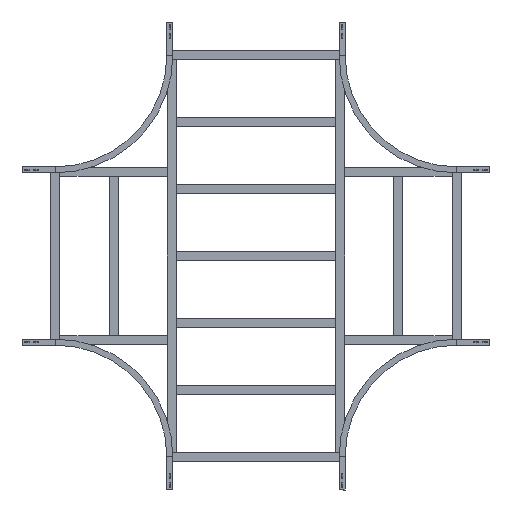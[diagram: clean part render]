
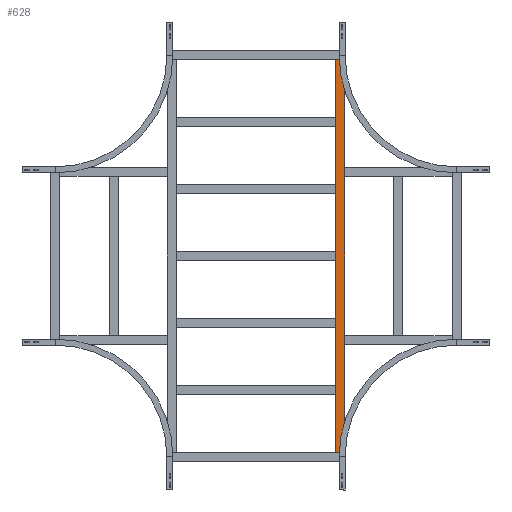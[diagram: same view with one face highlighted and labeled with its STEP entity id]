
A CAD part, front view. The second image highlights one B-rep face of the part: STEP entity #628.
In plain terms, the highlighted planar face has unit normal (0, -1, 0).
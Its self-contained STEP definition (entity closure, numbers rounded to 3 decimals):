
#31 = LINE ( 'NONE', #977, #1953 ) ;
#82 = DIRECTION ( 'NONE',  ( -1., 0., 0. ) ) ;
#87 = ORIENTED_EDGE ( 'NONE', *, *, #2521, .F. ) ;
#96 = CARTESIAN_POINT ( 'NONE',  ( 879.75, 0., 20.25 ) ) ;
#124 = EDGE_CURVE ( 'NONE', #2444, #817, #2101, .T. ) ;
#562 = CARTESIAN_POINT ( 'NONE',  ( 879.75, 0., -20.25 ) ) ;
#627 = CARTESIAN_POINT ( 'NONE',  ( -879.75, 0., -20.25 ) ) ;
#628 = ADVANCED_FACE ( 'NONE', ( #1927 ), #1705, .F. ) ;
#752 = DIRECTION ( 'NONE',  ( 0., 1., 0. ) ) ;
#817 = VERTEX_POINT ( 'NONE', #2845 ) ;
#977 = CARTESIAN_POINT ( 'NONE',  ( -879.75, 0., 20.25 ) ) ;
#1033 = VERTEX_POINT ( 'NONE', #562 ) ;
#1089 = AXIS2_PLACEMENT_3D ( 'NONE', #1648, #752, #1242 ) ;
#1092 = CARTESIAN_POINT ( 'NONE',  ( 879.75, 0., -20.25 ) ) ;
#1171 = ORIENTED_EDGE ( 'NONE', *, *, #124, .T. ) ;
#1181 = CARTESIAN_POINT ( 'NONE',  ( 879.75, 0., 20.25 ) ) ;
#1233 = VECTOR ( 'NONE', #2113, 1000. ) ;
#1242 = DIRECTION ( 'NONE',  ( 0., 0., 1. ) ) ;
#1244 = VERTEX_POINT ( 'NONE', #627 ) ;
#1648 = CARTESIAN_POINT ( 'NONE',  ( 879.75, 0., 20.25 ) ) ;
#1705 = PLANE ( 'NONE',  #1089 ) ;
#1733 = EDGE_CURVE ( 'NONE', #817, #1244, #31, .T. ) ;
#1889 = DIRECTION ( 'NONE',  ( 0., 0., -1. ) ) ;
#1927 = FACE_OUTER_BOUND ( 'NONE', #2425, .T. ) ;
#1953 = VECTOR ( 'NONE', #1889, 1000. ) ;
#2030 = ORIENTED_EDGE ( 'NONE', *, *, #2097, .F. ) ;
#2097 = EDGE_CURVE ( 'NONE', #2444, #1033, #2492, .T. ) ;
#2101 = LINE ( 'NONE', #96, #1233 ) ;
#2113 = DIRECTION ( 'NONE',  ( -1., 0., 0. ) ) ;
#2238 = LINE ( 'NONE', #1092, #2746 ) ;
#2262 = DIRECTION ( 'NONE',  ( 0., 0., -1. ) ) ;
#2425 = EDGE_LOOP ( 'NONE', ( #2719, #87, #2030, #1171 ) ) ;
#2426 = VECTOR ( 'NONE', #2262, 1000. ) ;
#2444 = VERTEX_POINT ( 'NONE', #2865 ) ;
#2492 = LINE ( 'NONE', #1181, #2426 ) ;
#2521 = EDGE_CURVE ( 'NONE', #1033, #1244, #2238, .T. ) ;
#2719 = ORIENTED_EDGE ( 'NONE', *, *, #1733, .T. ) ;
#2746 = VECTOR ( 'NONE', #82, 1000. ) ;
#2845 = CARTESIAN_POINT ( 'NONE',  ( -879.75, 0., 20.25 ) ) ;
#2865 = CARTESIAN_POINT ( 'NONE',  ( 879.75, 0., 20.25 ) ) ;
